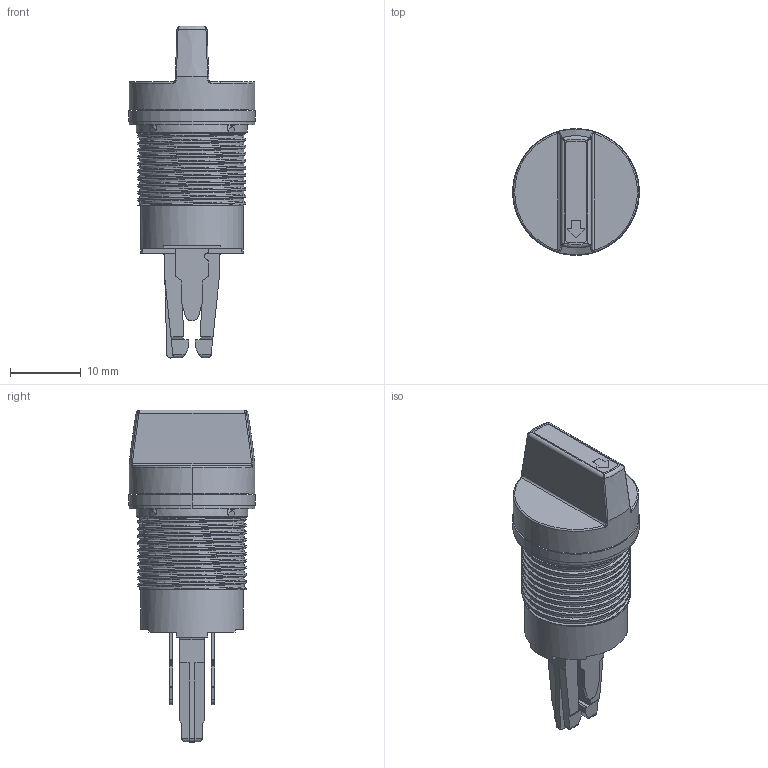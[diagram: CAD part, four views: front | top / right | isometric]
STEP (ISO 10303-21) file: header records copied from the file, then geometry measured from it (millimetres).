
FILE_DESCRIPTION((''),'2;1');
FILE_NAME('10000122876_ASM','2010-10-13T',('MEDavids'),('Rockwell Automation'),'PRO/ENGINEER BY PARAMETRIC TECHNOLOGY CORPORATION, 2007390','PRO/ENGINEER BY PARAMETRIC TECHNOLOGY CORPORATION, 2007390','');
FILE_SCHEMA(('CONFIG_CONTROL_DESIGN'));
Length unit declared in the file: millimetre
Products named in the file (3): 10000122874; 10000122875; 10000122876_ASM
Assembly tree (2 placements, depth 2):
  10000122876_ASM
    10000122874
    10000122875
Bounding box: 18 x 18 x 47.09 mm (x, y, z)
Volume: 883.1 mm3; surface area: 4694.9 mm2
Topology: 2 solids, 4 shells, 475 faces, 1430 edges, 961 vertices
Faces by surface type: plane 221, cylinder 131, cone 42, bspline 42, torus 20, extrusion 19
Entity records: 24249 total; most frequent: CARTESIAN_POINT 11996, ORIENTED_EDGE 2661, DIRECTION 2248, EDGE_CURVE 1426, VERTEX_POINT 961, AXIS2_PLACEMENT_3D 776, VECTOR 696, LINE 677
